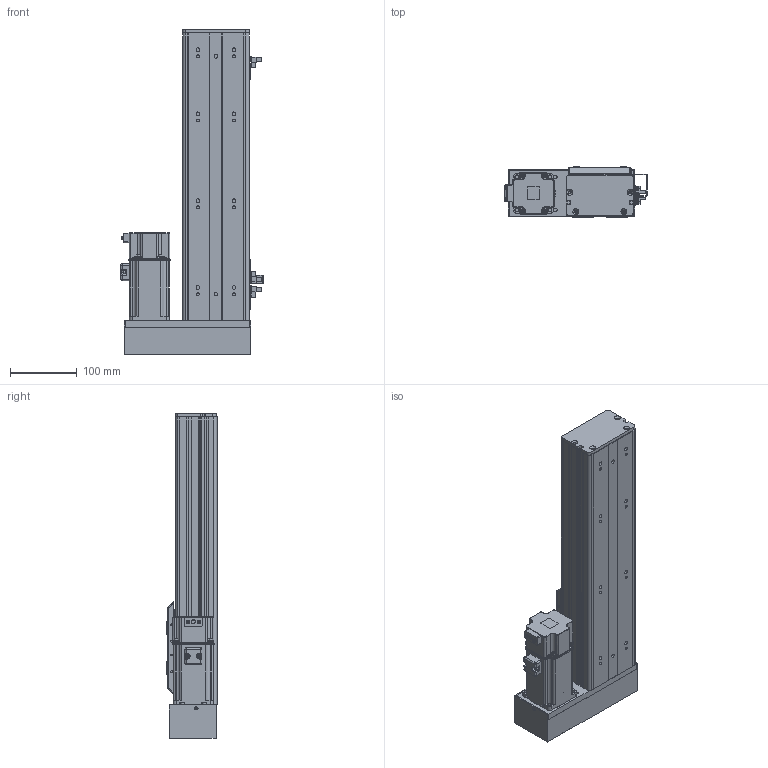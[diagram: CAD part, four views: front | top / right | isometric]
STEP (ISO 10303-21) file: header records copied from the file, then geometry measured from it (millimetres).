
FILE_DESCRIPTION (( 'STEP AP203' ), '1' );
FILE_NAME ('BOSW100-250-1610-1P-RM-M400W-O-S3（方程式2016）.step', '2020-10-10T07:15:42', ( '' ), ( '' ), 'SwSTEP 2.0', 'SolidWorks 2016', '' );
FILE_SCHEMA (( 'CONFIG_CONTROL_DESIGN' ));
Length unit declared in the file: millimetre
Products named in the file (14): BOSW-100-1P-DM-宽轨-钢带-250客户图纸; 放大器内置U型微型光电传感器PM-L65; BOSW&TW-100-1P-賑雄釱欶; AIMS(W)-100-LM&RM-肮祭謫欶; BOSW-100-1P-DM-250諦誧芞; BOSW&TW-100-詩湍揤沭(陔賦凳); S400W(SMA-L040); 俋境嫖覜嘐隅啣; 新结构AIMSW-100-1P-宽&高轨共用-滑动座上组件; BOSW-100-綴裔啣; boS-100-LM&RM-三菱M400W马达板-宽轨; BOSW100-250-1610-1P-RM-M400W-O-S3（方程式2016）; BOSW&TW-100-俋离覜茼え; BOSW-100-1P-DM-宽轨-侧板-250客户图纸
Assembly tree (19 placements, depth 2):
  BOSW100-250-1610-1P-RM-M400W-O-S3（方程式2016）
    BOSW-100-1P-DM-250諦誧芞
    BOSW-100-綴裔啣
    新结构AIMSW-100-1P-宽&高轨共用-滑动座上组件
    S400W(SMA-L040)
    BOSW&TW-100-詩湍揤沭(陔賦凳)  x2
    BOSW&TW-100-1P-賑雄釱欶
    BOSW-100-1P-DM-宽轨-侧板-250客户图纸  x2
    BOSW-100-1P-DM-宽轨-钢带-250客户图纸
    AIMS(W)-100-LM&RM-肮祭謫欶
    boS-100-LM&RM-三菱M400W马达板-宽轨
    俋境嫖覜嘐隅啣  x3
    放大器内置U型微型光电传感器PM-L65  x3
    BOSW&TW-100-俋离覜茼え
Bounding box: 213.4 x 75 x 486 mm (x, y, z)
Volume: 1257863 mm3; surface area: 623689 mm2
Topology: 19 solids, 20 shells, 2493 faces, 6567 edges, 4187 vertices
Faces by surface type: plane 1237, cylinder 770, bspline 271, cone 167, torus 36, sphere 12
Entity records: 68052 total; most frequent: CARTESIAN_POINT 20512, ORIENTED_EDGE 9674, DIRECTION 9345, EDGE_CURVE 4837, AXIS2_PLACEMENT_3D 3297, VERTEX_POINT 3089, VECTOR 2751, LINE 2751
